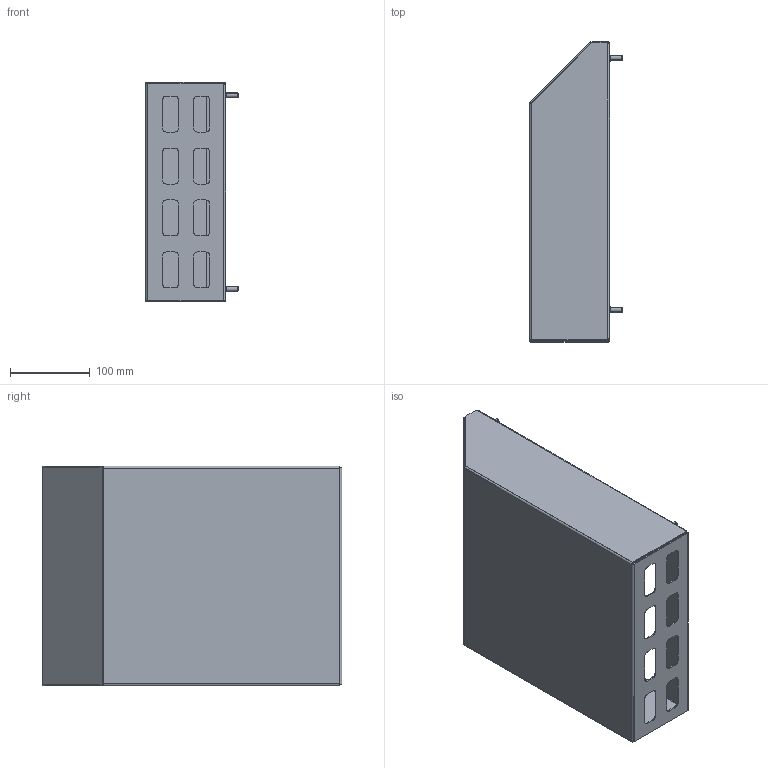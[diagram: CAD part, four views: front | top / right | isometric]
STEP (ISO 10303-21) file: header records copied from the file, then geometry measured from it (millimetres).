
FILE_DESCRIPTION (( 'STEP AP203' ), '1' );
FILE_NAME ('EFCS25-30_V2.step', '2014-09-23T08:43:05', ( '' ), ( '' ), 'SwSTEP 2.0', 'SolidWorks 2014', '' );
FILE_SCHEMA (( 'CONFIG_CONTROL_DESIGN' ));
Length unit declared in the file: millimetre
Products named in the file (3): EFCS_03; EFCS25-30_V2; 7908-0815-15_M6x16
Assembly tree (5 placements, depth 2):
  EFCS25-30_V2
    EFCS_03
    7908-0815-15_M6x16  x4
Bounding box: 116 x 375 x 275 mm (x, y, z)
Volume: 352854.2 mm3; surface area: 474526.3 mm2
Topology: 5 solids, 5 shells, 214 faces, 516 edges, 312 vertices
Faces by surface type: plane 114, cylinder 76, cone 16, bspline 8
Entity records: 5989 total; most frequent: CARTESIAN_POINT 1221, DIRECTION 908, ORIENTED_EDGE 908, EDGE_CURVE 454, VECTOR 304, LINE 304, AXIS2_PLACEMENT_3D 302, VERTEX_POINT 279
